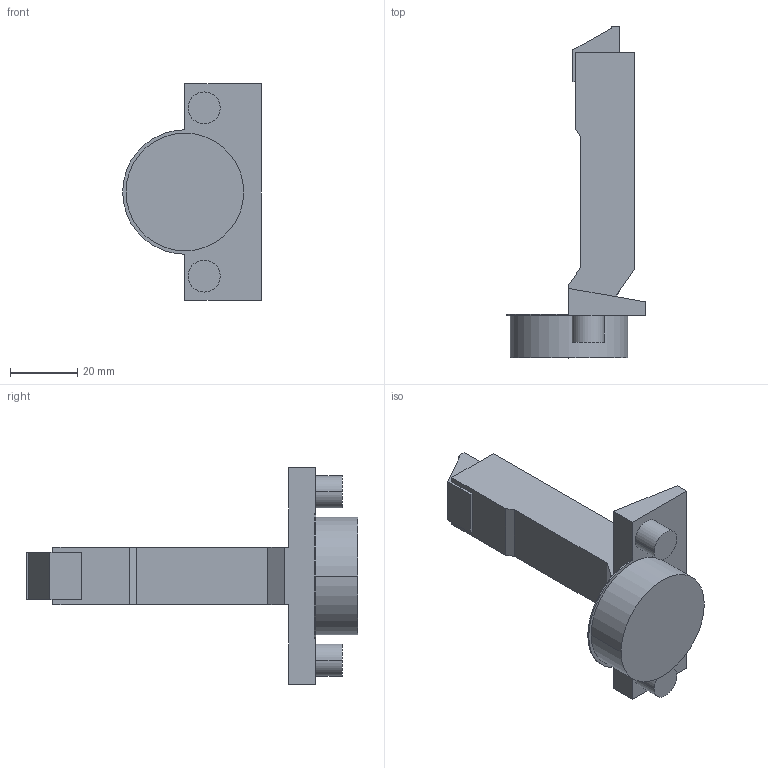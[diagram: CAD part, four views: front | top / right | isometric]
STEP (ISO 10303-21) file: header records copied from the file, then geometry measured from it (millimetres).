
FILE_DESCRIPTION (( 'STEP AP214' ), '1' );
FILE_NAME ('Scharnier TT Impresso 95° HS_BB, K00.step', '2010-12-06T09:52:01', ( 'grass' ), ( '' ), 'SwSTEP 2.0', 'SolidWorks 2010', '' );
FILE_SCHEMA (( 'AUTOMOTIVE_DESIGN' ));
Length unit declared in the file: millimetre
Products named in the file (1): Scharnier TT Impresso 95° HS_BB, K00
Bounding box: 41.25 x 98.7 x 64.5 mm (x, y, z)
Volume: 43130.4 mm3; surface area: 12362.8 mm2
Topology: 1 solids, 3 shells, 54 faces, 126 edges, 84 vertices
Faces by surface type: plane 37, cylinder 17
Entity records: 1574 total; most frequent: DIRECTION 270, CARTESIAN_POINT 265, ORIENTED_EDGE 252, EDGE_CURVE 126, VECTOR 92, LINE 92, AXIS2_PLACEMENT_3D 89, VERTEX_POINT 84
